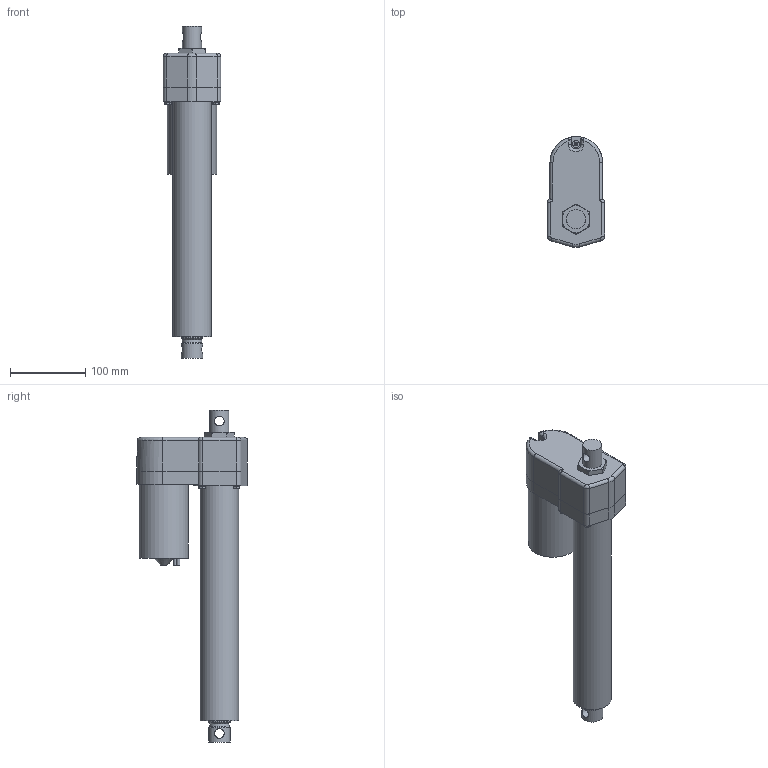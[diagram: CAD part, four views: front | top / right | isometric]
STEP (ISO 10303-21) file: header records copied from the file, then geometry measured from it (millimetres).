
FILE_DESCRIPTION (( 'STEP AP214' ), '1' );
FILE_NAME ('D12-05A5-10M0N-tollo.step', '2020-04-13T14:30:44', ( '' ), ( '' ), 'SwSTEP 2.0', 'SolidWorks 2010', '' );
FILE_SCHEMA (( 'AUTOMOTIVE_DESIGN' ));
Length unit declared in the file: millimetre
Products named in the file (7): Electrak-LA10-Motor-D12-05A5-10M0N-tollo_Electrak-LA10-Motor-D12-05A5-10M0N-tollo; Electrak-LA10-Rear-D12-05A5-10M0N-tollo_Electrak-LA10-Rear-D12-05A5-10M0N-tollo; Electrak-LA10-Tube-D12-05A5-10M0N-tollo_Electrak-LA10-Tube-D12-05A5-10M0N-tollo; Electrak-LA10-Rod-D12-05A5-10M0N-tollo_Electrak-LA10-Rod-D12-05A5-10M0N-tollo; Screw-MFX-H-M5-D12-05A5-10M0N-tollo_Screw-MFX-H-M5-D12-05A5-10M0N-tollo; Screw-M6S-M5-D12-05A5-10M0N-tollo_Screw-M6S-M5-D12-05A5-10M0N-tollo; D12-05A5-10M0N-tollo
Assembly tree (9 placements, depth 2):
  D12-05A5-10M0N-tollo
    Screw-M6S-M5-D12-05A5-10M0N-tollo_Screw-M6S-M5-D12-05A5-10M0N-tollo  x4
    Electrak-LA10-Motor-D12-05A5-10M0N-tollo_Electrak-LA10-Motor-D12-05A5-10M0N-tollo
    Electrak-LA10-Rod-D12-05A5-10M0N-tollo_Electrak-LA10-Rod-D12-05A5-10M0N-tollo
    Electrak-LA10-Tube-D12-05A5-10M0N-tollo_Electrak-LA10-Tube-D12-05A5-10M0N-tollo
    Screw-MFX-H-M5-D12-05A5-10M0N-tollo_Screw-MFX-H-M5-D12-05A5-10M0N-tollo
    Electrak-LA10-Rear-D12-05A5-10M0N-tollo_Electrak-LA10-Rear-D12-05A5-10M0N-tollo
Bounding box: 76.2 x 147.19 x 440.8 mm (x, y, z)
Volume: 1598385 mm3; surface area: 205315.2 mm2
Topology: 9 solids, 9 shells, 221 faces, 506 edges, 322 vertices
Faces by surface type: plane 91, cylinder 84, cone 30, torus 14, bspline 2
Full cylindrical faces by diameter (mm): 4 x2, 4.126 x5, 4.8 x10, 5 x5, 7.878 x4, 9.3 x1, 12.8 x2, 25.4 x1, 28.6 x4, 51 x1, 65.3 x1
Entity records: 5123 total; most frequent: CARTESIAN_POINT 1484, DIRECTION 724, ORIENTED_EDGE 594, AXIS2_PLACEMENT_3D 305, EDGE_CURVE 297, EDGE_LOOP 224, VERTEX_POINT 213, FACE_OUTER_BOUND 179
